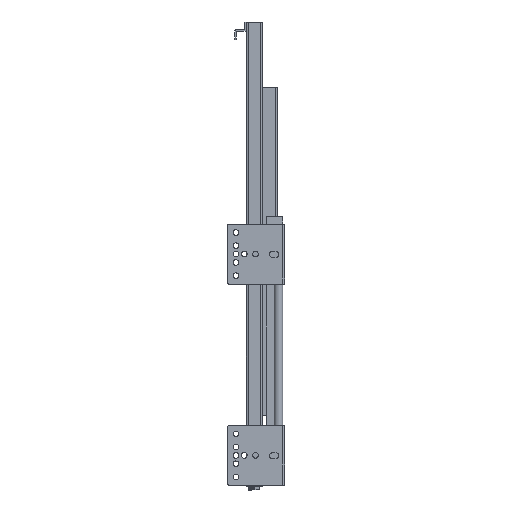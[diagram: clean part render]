
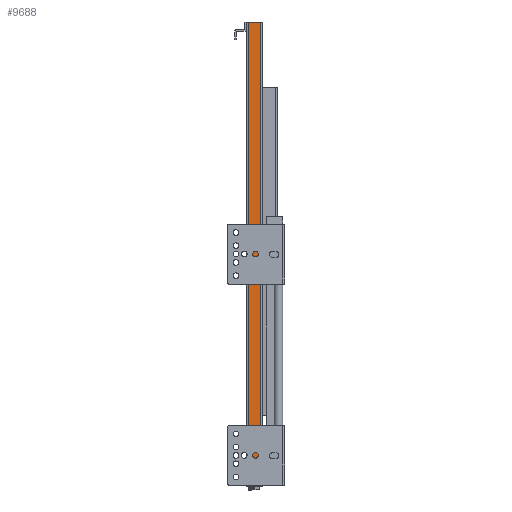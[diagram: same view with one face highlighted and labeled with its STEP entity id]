
A CAD part, left-side view. The second image highlights one B-rep face of the part: STEP entity #9688.
In plain terms, the highlighted planar face has unit normal (-1, 0, 0) as drawn and (1, 0, 0) by its records, which use the part's own axes.
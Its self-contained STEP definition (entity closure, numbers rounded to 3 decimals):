
#320=PLANE('',#10314);
#698=FACE_BOUND('',#3538,.T.);
#894=LINE('',#14156,#1950);
#898=LINE('',#14164,#1954);
#901=LINE('',#14170,#1957);
#904=LINE('',#14175,#1960);
#907=LINE('',#14185,#1963);
#908=LINE('',#14188,#1964);
#909=LINE('',#14190,#1965);
#910=LINE('',#14191,#1966);
#1950=VECTOR('',#11400,10.);
#1954=VECTOR('',#11406,10.);
#1957=VECTOR('',#11411,10.);
#1960=VECTOR('',#11416,10.);
#1963=VECTOR('',#11425,10.);
#1964=VECTOR('',#11428,10.);
#1965=VECTOR('',#11429,10.);
#1966=VECTOR('',#11430,10.);
#2970=FACE_OUTER_BOUND('',#3537,.T.);
#3537=EDGE_LOOP('',(#7065,#7066,#7067,#7068));
#3538=EDGE_LOOP('',(#7069,#7070,#7071,#7072));
#4513=VERTEX_POINT('',#14154);
#4514=VERTEX_POINT('',#14155);
#4517=VERTEX_POINT('',#14163);
#4519=VERTEX_POINT('',#14169);
#4521=VERTEX_POINT('',#14178);
#4524=VERTEX_POINT('',#14183);
#4525=VERTEX_POINT('',#14187);
#4526=VERTEX_POINT('',#14189);
#5494=EDGE_CURVE('',#4513,#4514,#894,.T.);
#5498=EDGE_CURVE('',#4514,#4517,#898,.T.);
#5501=EDGE_CURVE('',#4517,#4519,#901,.T.);
#5504=EDGE_CURVE('',#4519,#4513,#904,.T.);
#5509=EDGE_CURVE('',#4524,#4521,#907,.T.);
#5510=EDGE_CURVE('',#4524,#4525,#908,.T.);
#5511=EDGE_CURVE('',#4526,#4525,#909,.T.);
#5512=EDGE_CURVE('',#4521,#4526,#910,.T.);
#7065=ORIENTED_EDGE('',*,*,#5509,.F.);
#7066=ORIENTED_EDGE('',*,*,#5510,.T.);
#7067=ORIENTED_EDGE('',*,*,#5511,.F.);
#7068=ORIENTED_EDGE('',*,*,#5512,.F.);
#7069=ORIENTED_EDGE('',*,*,#5501,.T.);
#7070=ORIENTED_EDGE('',*,*,#5504,.T.);
#7071=ORIENTED_EDGE('',*,*,#5494,.T.);
#7072=ORIENTED_EDGE('',*,*,#5498,.T.);
#9688=ADVANCED_FACE('',(#2970,#698),#320,.T.);
#10314=AXIS2_PLACEMENT_3D('',#14186,#11426,#11427);
#11400=DIRECTION('',(0.,-1.,0.));
#11406=DIRECTION('',(0.,0.,1.));
#11411=DIRECTION('',(0.,1.,0.));
#11416=DIRECTION('',(0.,0.,-1.));
#11425=DIRECTION('',(0.,0.,1.));
#11426=DIRECTION('center_axis',(1.,0.,0.));
#11427=DIRECTION('ref_axis',(0.,1.,0.));
#11428=DIRECTION('',(0.,1.,0.));
#11429=DIRECTION('',(0.,0.,-1.));
#11430=DIRECTION('',(0.,1.,0.));
#14154=CARTESIAN_POINT('',(29.928,-3.375,-58.));
#14155=CARTESIAN_POINT('',(29.928,-10.387,-58.));
#14156=CARTESIAN_POINT('',(29.928,-10.188,-58.));
#14163=CARTESIAN_POINT('',(29.928,-10.387,-40.));
#14164=CARTESIAN_POINT('',(29.928,-10.387,-294.));
#14169=CARTESIAN_POINT('',(29.928,-3.375,-40.));
#14170=CARTESIAN_POINT('',(29.928,-13.694,-40.));
#14175=CARTESIAN_POINT('',(29.928,-3.375,-285.));
#14178=CARTESIAN_POINT('',(29.928,-15.,-34.));
#14183=CARTESIAN_POINT('',(29.928,-15.,-530.));
#14185=CARTESIAN_POINT('',(29.928,-15.,-530.));
#14186=CARTESIAN_POINT('Origin',(29.928,-17.,-530.));
#14187=CARTESIAN_POINT('',(29.928,-2.,-530.));
#14188=CARTESIAN_POINT('',(29.928,-17.,-530.));
#14189=CARTESIAN_POINT('',(29.928,-2.,-34.));
#14190=CARTESIAN_POINT('',(29.928,-2.,-530.));
#14191=CARTESIAN_POINT('',(29.928,-17.,-34.));
